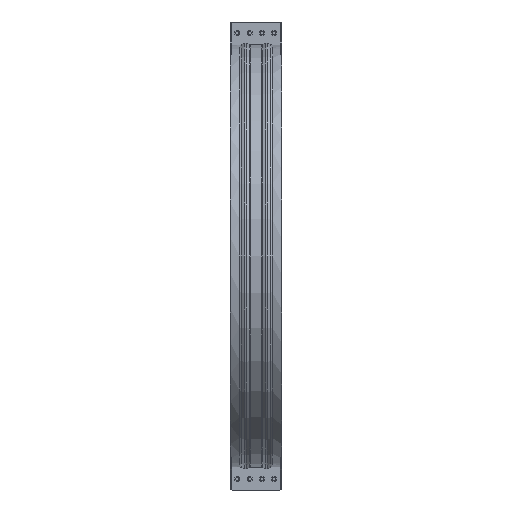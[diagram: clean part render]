
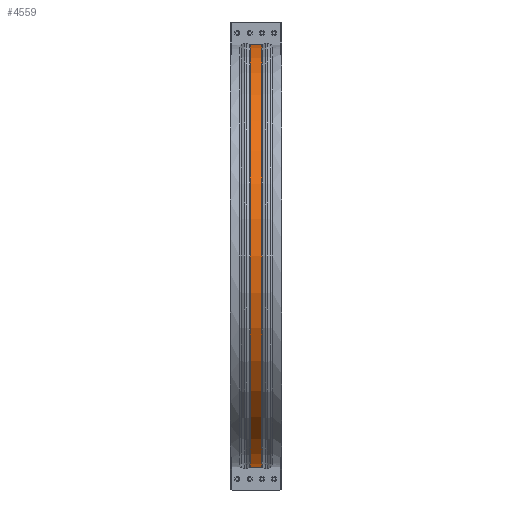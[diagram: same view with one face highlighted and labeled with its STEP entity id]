
A CAD part, front view. The second image highlights one B-rep face of the part: STEP entity #4559.
In plain terms, the highlighted cylindrical face has radius 1540.18 mm (diameter 3080.35 mm), a partial arc.
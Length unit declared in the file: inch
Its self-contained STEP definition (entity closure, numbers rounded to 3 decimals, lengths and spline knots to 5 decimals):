
#414=FACE_OUTER_BOUND('',#671,.T.);
#671=EDGE_LOOP('',(#3465,#3466,#3467,#3468));
#1036=LINE('',#7017,#1485);
#1044=LINE('',#7149,#1493);
#1485=VECTOR('',#5630,0.3937);
#1493=VECTOR('',#5690,0.3937);
#1771=CIRCLE('',#4875,60.63689);
#1773=CIRCLE('',#4879,60.63689);
#2060=VERTEX_POINT('',#7009);
#2061=VERTEX_POINT('',#7016);
#2076=VERTEX_POINT('',#7134);
#2078=VERTEX_POINT('',#7147);
#2565=EDGE_CURVE('',#2061,#2060,#1036,.T.);
#2590=EDGE_CURVE('',#2076,#2061,#1771,.T.);
#2594=EDGE_CURVE('',#2078,#2060,#1773,.T.);
#2595=EDGE_CURVE('',#2078,#2076,#1044,.T.);
#3465=ORIENTED_EDGE('',*,*,#2565,.T.);
#3466=ORIENTED_EDGE('',*,*,#2594,.F.);
#3467=ORIENTED_EDGE('',*,*,#2595,.T.);
#3468=ORIENTED_EDGE('',*,*,#2590,.T.);
#4182=CYLINDRICAL_SURFACE('',#4878,60.63689);
#4559=ADVANCED_FACE('',(#414),#4182,.T.);
#4875=AXIS2_PLACEMENT_3D('',#7135,#5679,#5680);
#4878=AXIS2_PLACEMENT_3D('',#7146,#5686,#5687);
#4879=AXIS2_PLACEMENT_3D('',#7148,#5688,#5689);
#5630=DIRECTION('',(1.,0.,0.));
#5679=DIRECTION('center_axis',(1.,0.,0.));
#5680=DIRECTION('ref_axis',(0.,0.,-1.));
#5686=DIRECTION('center_axis',(1.,0.,0.));
#5687=DIRECTION('ref_axis',(0.,-1.,0.));
#5688=DIRECTION('center_axis',(1.,0.,0.));
#5689=DIRECTION('ref_axis',(0.,0.,-1.));
#5690=DIRECTION('',(-1.,0.,0.));
#7009=CARTESIAN_POINT('',(1.60101,-0.475,-60.63503));
#7016=CARTESIAN_POINT('',(-1.60101,-0.475,-60.63503));
#7017=CARTESIAN_POINT('',(0.,-0.475,-60.63503));
#7134=CARTESIAN_POINT('',(-1.60101,-0.475,60.63503));
#7135=CARTESIAN_POINT('Origin',(-1.60101,0.,0.));
#7146=CARTESIAN_POINT('Origin',(0.,0.,0.));
#7147=CARTESIAN_POINT('',(1.60101,-0.475,60.63503));
#7148=CARTESIAN_POINT('Origin',(1.60101,0.,0.));
#7149=CARTESIAN_POINT('',(0.,-0.475,60.63503));
